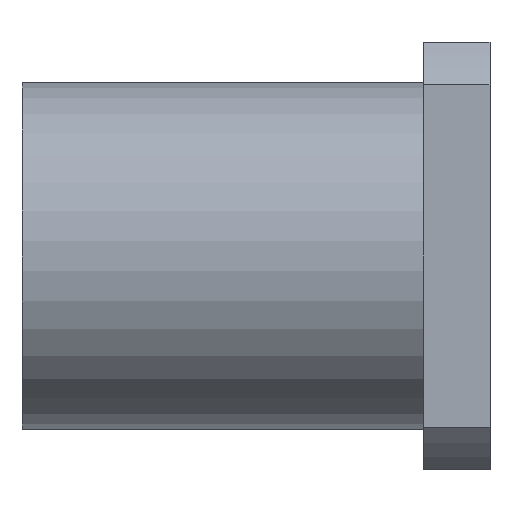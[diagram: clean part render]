
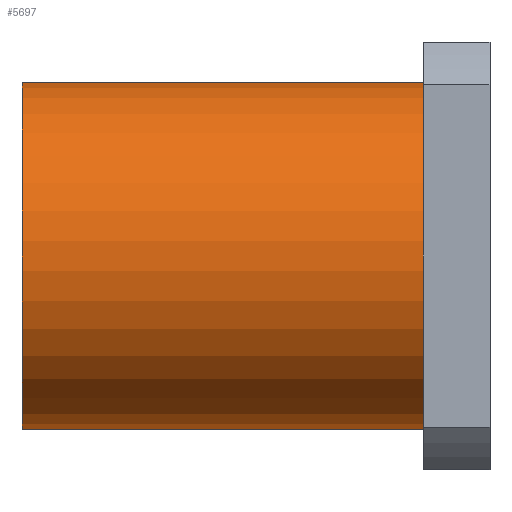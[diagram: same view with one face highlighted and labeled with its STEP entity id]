
A CAD part, front view. The second image highlights one B-rep face of the part: STEP entity #5697.
In plain terms, the highlighted cylindrical face has radius 26 mm (diameter 52 mm), a full revolution.
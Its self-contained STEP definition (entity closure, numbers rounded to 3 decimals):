
#84=CYLINDRICAL_SURFACE('',#6063,26.);
#119=CIRCLE('',#6064,26.);
#120=CIRCLE('',#6065,26.);
#1752=ORIENTED_EDGE('',*,*,#3401,.T.);
#1753=ORIENTED_EDGE('',*,*,#3402,.T.);
#3401=EDGE_CURVE('',#4224,#4224,#119,.T.);
#3402=EDGE_CURVE('',#4225,#4225,#120,.F.);
#4224=VERTEX_POINT('',#9061);
#4225=VERTEX_POINT('',#9063);
#4685=EDGE_LOOP('',(#1752));
#4686=EDGE_LOOP('',(#1753));
#5087=FACE_BOUND('',#4685,.T.);
#5088=FACE_BOUND('',#4686,.T.);
#5697=ADVANCED_FACE('',(#5087,#5088),#84,.T.);
#6063=AXIS2_PLACEMENT_3D('',#9059,#6600,#6601);
#6064=AXIS2_PLACEMENT_3D('',#9060,#6602,#6603);
#6065=AXIS2_PLACEMENT_3D('',#9062,#6604,#6605);
#6600=DIRECTION('',(1.,0.,0.));
#6601=DIRECTION('',(0.,0.707,-0.707));
#6602=DIRECTION('',(1.,0.,0.));
#6603=DIRECTION('',(0.,0.707,-0.707));
#6604=DIRECTION('',(1.,0.,0.));
#6605=DIRECTION('',(0.,0.707,-0.707));
#9059=CARTESIAN_POINT('',(-35.,0.,0.));
#9060=CARTESIAN_POINT('',(-35.,0.,0.));
#9061=CARTESIAN_POINT('',(-35.,18.385,-18.385));
#9062=CARTESIAN_POINT('',(25.,0.,0.));
#9063=CARTESIAN_POINT('',(25.,18.385,-18.385));
